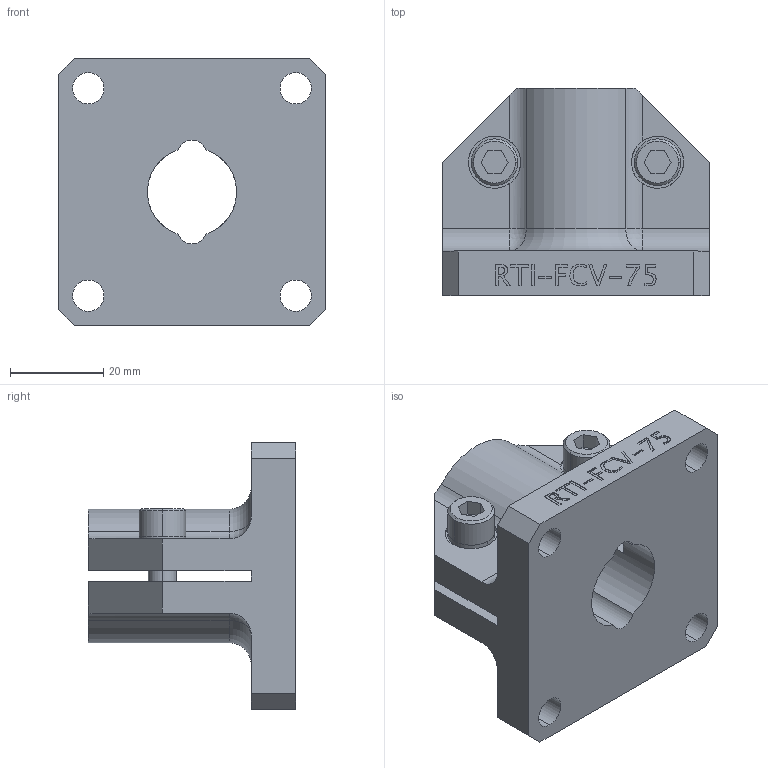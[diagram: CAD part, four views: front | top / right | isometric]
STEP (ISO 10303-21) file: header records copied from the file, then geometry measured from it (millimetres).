
FILE_DESCRIPTION (( 'STEP AP214' ), '1' );
FILE_NAME ('RTI-FCV-75.STEP', '2013-10-22T13:53:23', ( 'user' ), ( '' ), 'SwSTEP 2.0', 'SolidWorks 2009', '' );
FILE_SCHEMA (( 'AUTOMOTIVE_DESIGN' ));
Length unit declared in the file: inch
Products named in the file (4): RTI-FCV-75; M6 WASHER; M6 S.H.C.S._M6x16mm
Assembly tree (5 placements, depth 2):
  RTI-FCV-75
    M6 S.H.C.S._M6x16mm  x2
    M6 WASHER  x2
    RTI-FCV-75
Bounding box: 57.15 x 44.45 x 57.15 mm (x, y, z)
Volume: 50502 mm3; surface area: 19539.4 mm2
Topology: 5 solids, 5 shells, 401 faces, 1039 edges, 683 vertices
Faces by surface type: plane 251, bspline 83, cylinder 52, cone 8, sphere 4, torus 3
Entity records: 20176 total; most frequent: CARTESIAN_POINT 7612, ORIENTED_EDGE 1970, DIRECTION 1519, EDGE_CURVE 985, VECTOR 707, LINE 707, VERTEX_POINT 651, EDGE_LOOP 434
